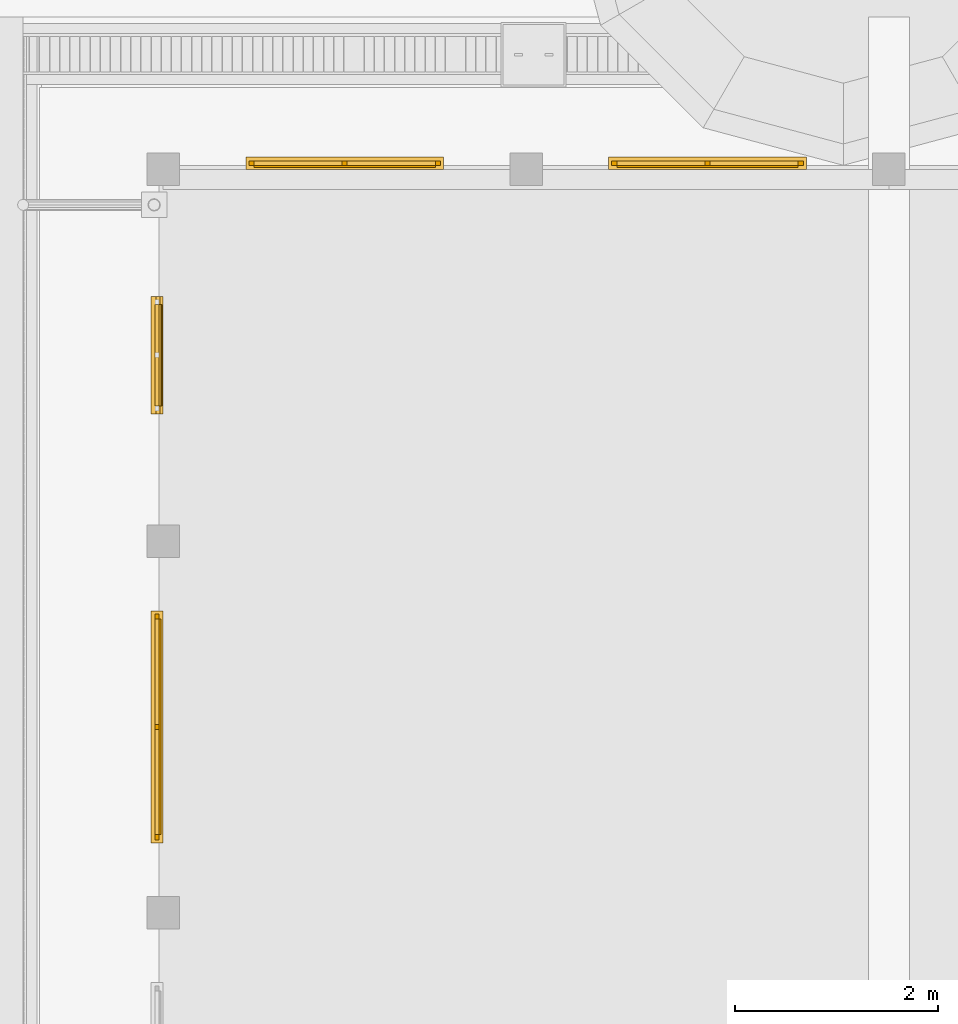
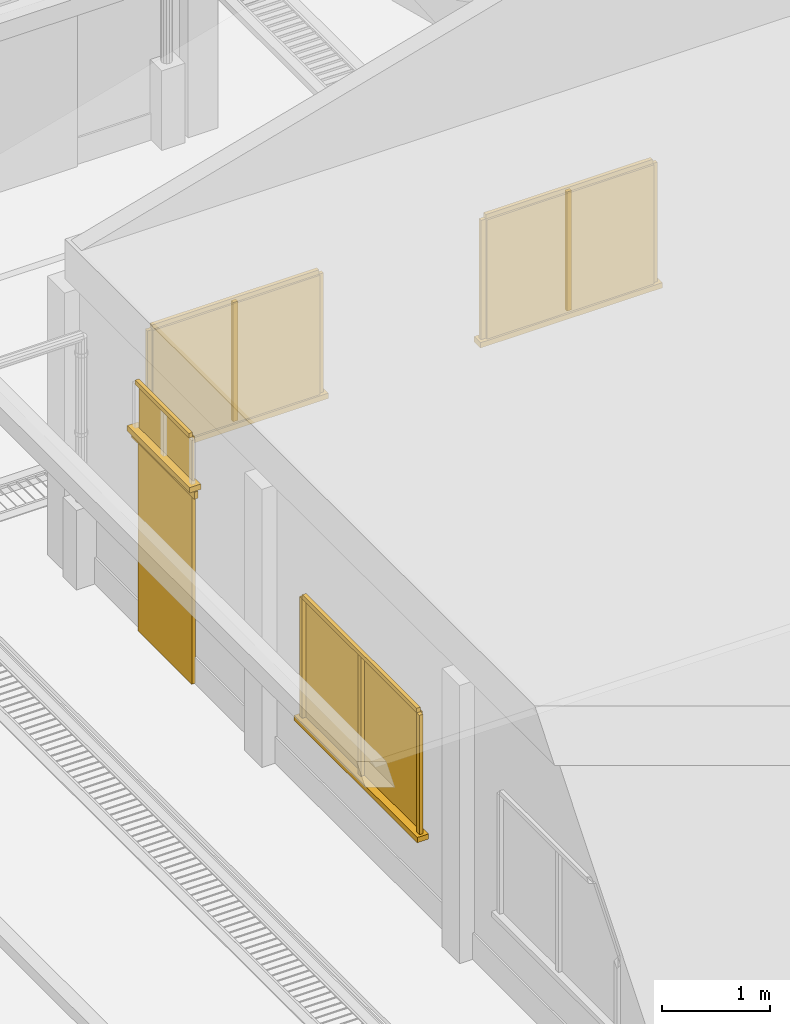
# One storey, part 53 of 166: 21 windows, 2 doors.
"""IFC2X3 building model written with IfcOpenShell, lengths in metres."""

from ifc_helpers import new_model, si_unit, origin, origin_with_axes, place, context, subcontext, project, spatial, faceted_brep, element, save


model = new_model("IFC2X3")

# Units and contexts
model_context = context("Model", 3, precision=1e-05, world=origin_with_axes())
body_context = subcontext(model_context, "Body", "Model", "MODEL_VIEW")
ifc_project = project(units=[si_unit("LENGTHUNIT", "METRE"), si_unit("AREAUNIT", "SQUARE_METRE"), si_unit("VOLUMEUNIT", "CUBIC_METRE"), si_unit("PLANEANGLEUNIT", "RADIAN")], contexts=[model_context])

# Site, building, storey
site_placement = place(None, origin_with_axes())
site = spatial("IfcSite", under=ifc_project, at=site_placement, Name="Predio Los Mangos - Morales, San Martín", CompositionType="ELEMENT")
building_placement = place(site_placement, origin())
building = spatial("IfcBuilding", under=site, at=building_placement, Name="Hogar de Refugio Temporal", CompositionType="ELEMENT")
storey_placement = place(building_placement, origin())
storey = spatial("IfcBuildingStorey", under=building, at=storey_placement, Name="NIVEL 1 (NPT +0.00)", CompositionType="ELEMENT", Elevation=0.0)

# Windows
window_1_placement = place(storey_placement, origin())
element("IfcWindow", 1, at=window_1_placement, inside=storey, Name="E-05_vg0_vid", ObjectType="Ventana", context=body_context, shape_type="Brep", body=[
    faceted_brep([(46.1937, 87.22, 1.05), (46.1937, 87.24, 1.05), (47.9813, 87.24, 1.05), (47.9813, 87.22, 1.05), (46.1937, 87.22, 2.4), (47.9813, 87.22, 2.4), (47.9813, 87.24, 2.4), (46.1937, 87.24, 2.4)], [[[0, 1, 2, 3]], [[4, 5, 6, 7]], [[0, 3, 5, 4]], [[3, 2, 6, 5]], [[2, 1, 7, 6]], [[1, 0, 4, 7]]]),
])
window_2_placement = place(storey_placement, origin())
element("IfcWindow", 2, at=window_2_placement, inside=storey, Name="E-05_vg0_m", ObjectType="Ventana", context=body_context, shape_type="Brep", body=[
    faceted_brep([(46.1437, 87.24, 1.05), (46.1437, 87.28, 1.05), (46.1937, 87.28, 1.05), (46.1937, 87.24, 1.05), (46.1437, 87.24, 2.4), (46.1937, 87.24, 2.4), (46.1937, 87.28, 2.4), (46.1437, 87.28, 2.4)], [[[0, 1, 2, 3]], [[4, 5, 6, 7]], [[0, 3, 5, 4]], [[3, 2, 6, 5]], [[2, 1, 7, 6]], [[1, 0, 4, 7]]]),
])
window_3_placement = place(storey_placement, origin())
element("IfcWindow", 3, at=window_3_placement, inside=storey, Name="E-05_vg0_m", ObjectType="Ventana", context=body_context, shape_type="Brep", body=[
    faceted_brep([(47.9813, 87.24, 1.05), (47.9813, 87.28, 1.05), (48.0312, 87.28, 1.05), (48.0312, 87.24, 1.05), (47.9813, 87.24, 2.4), (48.0312, 87.24, 2.4), (48.0312, 87.28, 2.4), (47.9813, 87.28, 2.4)], [[[0, 1, 2, 3]], [[4, 5, 6, 7]], [[0, 3, 5, 4]], [[3, 2, 6, 5]], [[2, 1, 7, 6]], [[1, 0, 4, 7]]]),
])
window_4_placement = place(storey_placement, origin())
element("IfcWindow", 4, at=window_4_placement, inside=storey, Name="E-05_vg0_m", ObjectType="Ventana", context=body_context, shape_type="Brep", body=[
    faceted_brep([(46.1937, 87.24, 2.4), (46.1937, 87.28, 2.4), (47.9813, 87.28, 2.4), (47.9813, 87.24, 2.4), (46.1937, 87.24, 2.45), (47.9813, 87.24, 2.45), (47.9813, 87.28, 2.45), (46.1937, 87.28, 2.45)], [[[0, 1, 2, 3]], [[4, 5, 6, 7]], [[0, 3, 5, 4]], [[3, 2, 6, 5]], [[2, 1, 7, 6]], [[1, 0, 4, 7]]]),
])
window_5_placement = place(storey_placement, origin())
element("IfcWindow", 5, at=window_5_placement, inside=storey, Name="E-05_vg0_m", ObjectType="Ventana", context=body_context, shape_type="Brep", body=[
    faceted_brep([(47.0625, 87.24, 1.05), (47.0625, 87.28, 1.05), (47.1125, 87.28, 1.05), (47.1125, 87.24, 1.05), (47.0625, 87.24, 2.4), (47.1125, 87.24, 2.4), (47.1125, 87.28, 2.4), (47.0625, 87.28, 2.4)], [[[0, 1, 2, 3]], [[4, 5, 6, 7]], [[0, 3, 5, 4]], [[3, 2, 6, 5]], [[2, 1, 7, 6]], [[1, 0, 4, 7]]]),
])
window_6_placement = place(storey_placement, origin())
element("IfcWindow", 6, at=window_6_placement, inside=storey, Name="E-05_vg0_alf", ObjectType="Ventana", context=body_context, shape_type="Brep", body=[
    faceted_brep([(46.1138, 87.2, 0.99), (46.1138, 87.32, 0.99), (48.0612, 87.32, 0.99), (48.0612, 87.2, 0.99), (46.1138, 87.2, 1.05), (48.0612, 87.2, 1.05), (48.0612, 87.32, 1.05), (46.1138, 87.32, 1.05)], [[[0, 1, 2, 3]], [[4, 5, 6, 7]], [[0, 3, 5, 4]], [[3, 2, 6, 5]], [[2, 1, 7, 6]], [[1, 0, 4, 7]]]),
])
window_7_placement = place(storey_placement, origin())
element("IfcWindow", 7, at=window_7_placement, inside=storey, Name="E-05_vg1_vid", ObjectType="Ventana", context=body_context, shape_type="Brep", body=[
    faceted_brep([(49.7687, 87.22, 1.05), (49.7687, 87.24, 1.05), (51.5563, 87.24, 1.05), (51.5563, 87.22, 1.05), (49.7687, 87.22, 2.4), (51.5563, 87.22, 2.4), (51.5563, 87.24, 2.4), (49.7687, 87.24, 2.4)], [[[0, 1, 2, 3]], [[4, 5, 6, 7]], [[0, 3, 5, 4]], [[3, 2, 6, 5]], [[2, 1, 7, 6]], [[1, 0, 4, 7]]]),
])
window_8_placement = place(storey_placement, origin())
element("IfcWindow", 8, at=window_8_placement, inside=storey, Name="E-05_vg1_m", ObjectType="Ventana", context=body_context, shape_type="Brep", body=[
    faceted_brep([(49.7188, 87.24, 1.05), (49.7188, 87.28, 1.05), (49.7687, 87.28, 1.05), (49.7687, 87.24, 1.05), (49.7188, 87.24, 2.4), (49.7687, 87.24, 2.4), (49.7687, 87.28, 2.4), (49.7188, 87.28, 2.4)], [[[0, 1, 2, 3]], [[4, 5, 6, 7]], [[0, 3, 5, 4]], [[3, 2, 6, 5]], [[2, 1, 7, 6]], [[1, 0, 4, 7]]]),
])
window_9_placement = place(storey_placement, origin())
element("IfcWindow", 9, at=window_9_placement, inside=storey, Name="E-05_vg1_m", ObjectType="Ventana", context=body_context, shape_type="Brep", body=[
    faceted_brep([(51.5563, 87.24, 1.05), (51.5563, 87.28, 1.05), (51.6063, 87.28, 1.05), (51.6063, 87.24, 1.05), (51.5563, 87.24, 2.4), (51.6063, 87.24, 2.4), (51.6063, 87.28, 2.4), (51.5563, 87.28, 2.4)], [[[0, 1, 2, 3]], [[4, 5, 6, 7]], [[0, 3, 5, 4]], [[3, 2, 6, 5]], [[2, 1, 7, 6]], [[1, 0, 4, 7]]]),
])
window_10_placement = place(storey_placement, origin())
element("IfcWindow", 10, at=window_10_placement, inside=storey, Name="E-05_vg1_m", ObjectType="Ventana", context=body_context, shape_type="Brep", body=[
    faceted_brep([(49.7687, 87.24, 2.4), (49.7687, 87.28, 2.4), (51.5563, 87.28, 2.4), (51.5563, 87.24, 2.4), (49.7687, 87.24, 2.45), (51.5563, 87.24, 2.45), (51.5563, 87.28, 2.45), (49.7687, 87.28, 2.45)], [[[0, 1, 2, 3]], [[4, 5, 6, 7]], [[0, 3, 5, 4]], [[3, 2, 6, 5]], [[2, 1, 7, 6]], [[1, 0, 4, 7]]]),
])
window_11_placement = place(storey_placement, origin())
element("IfcWindow", 11, at=window_11_placement, inside=storey, Name="E-05_vg1_m", ObjectType="Ventana", context=body_context, shape_type="Brep", body=[
    faceted_brep([(50.6375, 87.24, 1.05), (50.6375, 87.28, 1.05), (50.6875, 87.28, 1.05), (50.6875, 87.24, 1.05), (50.6375, 87.24, 2.4), (50.6875, 87.24, 2.4), (50.6875, 87.28, 2.4), (50.6375, 87.28, 2.4)], [[[0, 1, 2, 3]], [[4, 5, 6, 7]], [[0, 3, 5, 4]], [[3, 2, 6, 5]], [[2, 1, 7, 6]], [[1, 0, 4, 7]]]),
])
window_12_placement = place(storey_placement, origin())
element("IfcWindow", 12, at=window_12_placement, inside=storey, Name="E-05_vg1_alf", ObjectType="Ventana", context=body_context, shape_type="Brep", body=[
    faceted_brep([(49.6888, 87.2, 0.99), (49.6888, 87.32, 0.99), (51.6362, 87.32, 0.99), (51.6362, 87.2, 0.99), (49.6888, 87.2, 1.05), (51.6362, 87.2, 1.05), (51.6362, 87.32, 1.05), (49.6888, 87.32, 1.05)], [[[0, 1, 2, 3]], [[4, 5, 6, 7]], [[0, 3, 5, 4]], [[3, 2, 6, 5]], [[2, 1, 7, 6]], [[1, 0, 4, 7]]]),
])
window_13_placement = place(storey_placement, origin())
element("IfcWindow", 13, at=window_13_placement, inside=storey, Name="E-05_v6_vid", ObjectType="Ventana", context=body_context, shape_type="Brep", body=[
    faceted_brep([(45.26, 80.6441, 1.05), (45.26, 82.7684, 1.05), (45.28, 82.7684, 1.05), (45.28, 80.6441, 1.05), (45.26, 80.6441, 2.4), (45.28, 80.6441, 2.4), (45.28, 82.7684, 2.4), (45.26, 82.7684, 2.4)], [[[0, 1, 2, 3]], [[4, 5, 6, 7]], [[0, 3, 5, 4]], [[3, 2, 6, 5]], [[2, 1, 7, 6]], [[1, 0, 4, 7]]]),
])
window_14_placement = place(storey_placement, origin())
element("IfcWindow", 14, at=window_14_placement, inside=storey, Name="E-05_v6_m", ObjectType="Ventana", context=body_context, shape_type="Brep", body=[
    faceted_brep([(45.22, 80.5941, 1.05), (45.22, 80.6441, 1.05), (45.26, 80.6441, 1.05), (45.26, 80.5941, 1.05), (45.22, 80.5941, 2.4), (45.26, 80.5941, 2.4), (45.26, 80.6441, 2.4), (45.22, 80.6441, 2.4)], [[[0, 1, 2, 3]], [[4, 5, 6, 7]], [[0, 3, 5, 4]], [[3, 2, 6, 5]], [[2, 1, 7, 6]], [[1, 0, 4, 7]]]),
])
window_15_placement = place(storey_placement, origin())
element("IfcWindow", 15, at=window_15_placement, inside=storey, Name="E-05_v6_m", ObjectType="Ventana", context=body_context, shape_type="Brep", body=[
    faceted_brep([(45.22, 82.7684, 1.05), (45.22, 82.8184, 1.05), (45.26, 82.8184, 1.05), (45.26, 82.7684, 1.05), (45.22, 82.7684, 2.4), (45.26, 82.7684, 2.4), (45.26, 82.8184, 2.4), (45.22, 82.8184, 2.4)], [[[0, 1, 2, 3]], [[4, 5, 6, 7]], [[0, 3, 5, 4]], [[3, 2, 6, 5]], [[2, 1, 7, 6]], [[1, 0, 4, 7]]]),
])
window_16_placement = place(storey_placement, origin())
element("IfcWindow", 16, at=window_16_placement, inside=storey, Name="E-05_v6_m", ObjectType="Ventana", context=body_context, shape_type="Brep", body=[
    faceted_brep([(45.22, 80.6441, 2.4), (45.22, 82.7684, 2.4), (45.26, 82.7684, 2.4), (45.26, 80.6441, 2.4), (45.22, 80.6441, 2.45), (45.26, 80.6441, 2.45), (45.26, 82.7684, 2.45), (45.22, 82.7684, 2.45)], [[[0, 1, 2, 3]], [[4, 5, 6, 7]], [[0, 3, 5, 4]], [[3, 2, 6, 5]], [[2, 1, 7, 6]], [[1, 0, 4, 7]]]),
])
window_17_placement = place(storey_placement, origin())
element("IfcWindow", 17, at=window_17_placement, inside=storey, Name="E-05_v6_m", ObjectType="Ventana", context=body_context, shape_type="Brep", body=[
    faceted_brep([(45.22, 81.6813, 1.05), (45.22, 81.7312, 1.05), (45.26, 81.7312, 1.05), (45.26, 81.6813, 1.05), (45.22, 81.6813, 2.4), (45.26, 81.6813, 2.4), (45.26, 81.7312, 2.4), (45.22, 81.7312, 2.4)], [[[0, 1, 2, 3]], [[4, 5, 6, 7]], [[0, 3, 5, 4]], [[3, 2, 6, 5]], [[2, 1, 7, 6]], [[1, 0, 4, 7]]]),
])
window_18_placement = place(storey_placement, origin())
element("IfcWindow", 18, at=window_18_placement, inside=storey, Name="E-05_v6_alf", ObjectType="Ventana", context=body_context, shape_type="Brep", body=[
    faceted_brep([(45.3, 80.5641, 0.99), (45.3, 82.8484, 0.99), (45.18, 82.8484, 0.99), (45.18, 80.5641, 0.99), (45.3, 80.5641, 1.05), (45.18, 80.5641, 1.05), (45.18, 82.8484, 1.05), (45.3, 82.8484, 1.05)], [[[0, 1, 2, 3]], [[4, 5, 6, 7]], [[0, 3, 5, 4]], [[3, 2, 6, 5]], [[2, 1, 7, 6]], [[1, 0, 4, 7]]]),
])

# Doors
door_1_placement = place(storey_placement, origin())
element("IfcDoor", 19, at=door_1_placement, inside=storey, Name="E-05_p7", ObjectType="Puerta", context=body_context, shape_type="Brep", body=[
    faceted_brep([(45.25, 84.8688, 0.15), (45.25, 85.8688, 0.15), (45.29, 85.8688, 0.15), (45.29, 84.8688, 0.15), (45.25, 84.8688, 2.3), (45.29, 84.8688, 2.3), (45.29, 85.8688, 2.3), (45.25, 85.8688, 2.3)], [[[0, 1, 2, 3]], [[4, 5, 6, 7]], [[0, 3, 5, 4]], [[3, 2, 6, 5]], [[2, 1, 7, 6]], [[1, 0, 4, 7]]]),
])
door_2_placement = place(storey_placement, origin())
element("IfcDoor", 20, at=door_2_placement, inside=storey, Name="E-05_p7_marco", ObjectType="Puerta", context=body_context, shape_type="Brep", body=[
    faceted_brep([(45.23, 84.7887, 2.3), (45.23, 85.9488, 2.3), (45.27, 85.9488, 2.3), (45.27, 84.7887, 2.3), (45.23, 84.7887, 2.38), (45.27, 84.7887, 2.38), (45.27, 85.9488, 2.38), (45.23, 85.9488, 2.38)], [[[0, 1, 2, 3]], [[4, 5, 6, 7]], [[0, 3, 5, 4]], [[3, 2, 6, 5]], [[2, 1, 7, 6]], [[1, 0, 4, 7]]]),
])

# Windows
window_19_placement = place(storey_placement, origin())
element("IfcWindow", 21, at=window_19_placement, inside=storey, Name="E-05_vt7_vid", ObjectType="Ventana", context=body_context, shape_type="Brep", body=[
    faceted_brep([(45.26, 84.8688, 2.45), (45.26, 85.8688, 2.45), (45.28, 85.8688, 2.45), (45.28, 84.8688, 2.45), (45.26, 84.8688, 2.95), (45.28, 84.8688, 2.95), (45.28, 85.8688, 2.95), (45.26, 85.8688, 2.95)], [[[0, 1, 2, 3]], [[4, 5, 6, 7]], [[0, 3, 5, 4]], [[3, 2, 6, 5]], [[2, 1, 7, 6]], [[1, 0, 4, 7]]]),
])
window_20_placement = place(storey_placement, origin())
element("IfcWindow", 22, at=window_20_placement, inside=storey, Name="E-05_vt7_m", ObjectType="Ventana", context=body_context, shape_type="Brep", body=[
    faceted_brep([(45.22, 84.8688, 2.95), (45.22, 85.8688, 2.95), (45.26, 85.8688, 2.95), (45.26, 84.8688, 2.95), (45.22, 84.8688, 3.0), (45.26, 84.8688, 3.0), (45.26, 85.8688, 3.0), (45.22, 85.8688, 3.0)], [[[0, 1, 2, 3]], [[4, 5, 6, 7]], [[0, 3, 5, 4]], [[3, 2, 6, 5]], [[2, 1, 7, 6]], [[1, 0, 4, 7]]]),
])
window_21_placement = place(storey_placement, origin())
element("IfcWindow", 23, at=window_21_placement, inside=storey, Name="E-05_vt7_alf", ObjectType="Ventana", context=body_context, shape_type="Brep", body=[
    faceted_brep([(45.3, 84.7887, 2.39), (45.3, 85.9488, 2.39), (45.18, 85.9488, 2.39), (45.18, 84.7887, 2.39), (45.3, 84.7887, 2.45), (45.18, 84.7887, 2.45), (45.18, 85.9488, 2.45), (45.3, 85.9488, 2.45)], [[[0, 1, 2, 3]], [[4, 5, 6, 7]], [[0, 3, 5, 4]], [[3, 2, 6, 5]], [[2, 1, 7, 6]], [[1, 0, 4, 7]]]),
])

save(model, "model.ifc")
